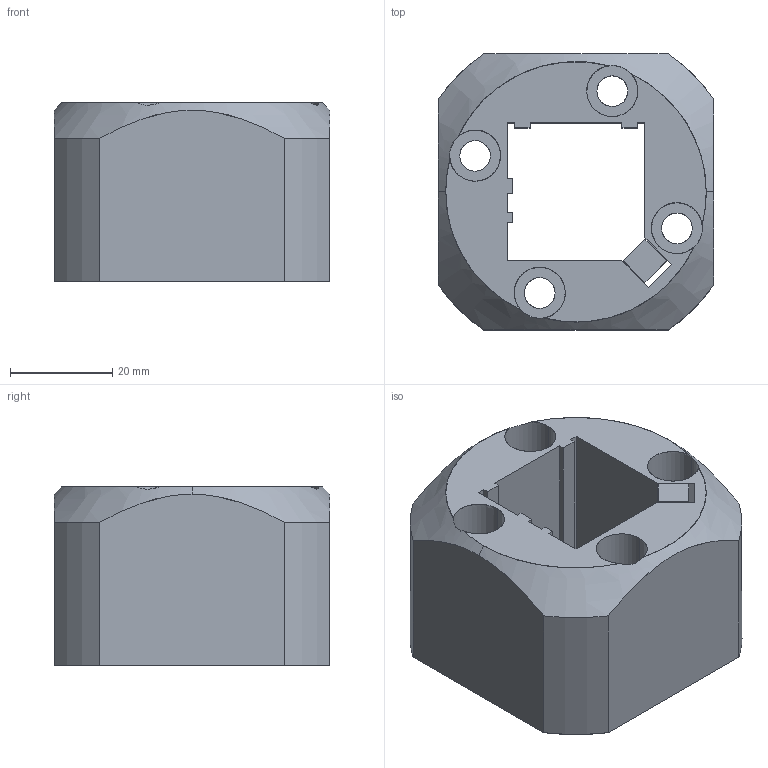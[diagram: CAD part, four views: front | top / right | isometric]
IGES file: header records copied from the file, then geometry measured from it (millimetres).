
Start section: SolidWorks IGES file using analytic representation for surfaces
Global section: file name: C:\Users\MMA\Desktop\Löschen\Daten WB\HER_1118_25.IGS; native system: SolidWorks 2021; preprocessor: SolidWorks 2021; author: mma; date: 240109.145632; units: millimetre
Bounding box: 54 x 54 x 35 mm (x, y, z)
Surface area: 19702.5 mm2 (no closed solid volume)
Topology: 0 solids, 0 shells, 61 faces, 970 edges, 970 vertices
Faces by surface type: bspline 39, revolution 22
